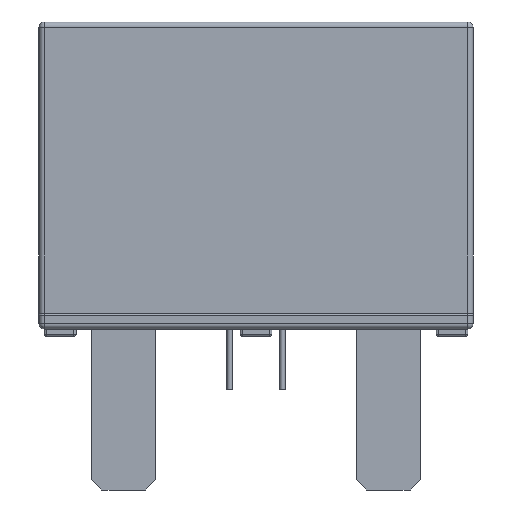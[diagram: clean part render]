
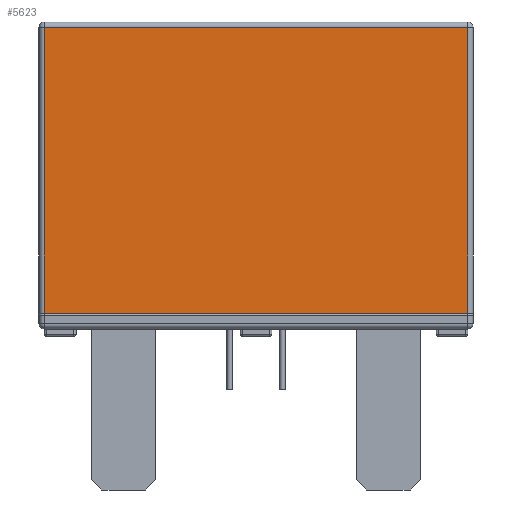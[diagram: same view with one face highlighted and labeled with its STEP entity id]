
A CAD part, front view. The second image highlights one B-rep face of the part: STEP entity #5623.
In plain terms, the highlighted planar face has unit normal (0, -1, 0).
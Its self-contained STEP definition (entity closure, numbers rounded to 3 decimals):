
#1083=DIRECTION('',(1.,0.,0.));
#1084=VECTOR('',#1083,40.);
#1085=CARTESIAN_POINT('',(-20.,-9.3,1.5));
#1086=LINE('',#1085,#1084);
#1189=DIRECTION('',(1.,0.,0.));
#1190=VECTOR('',#1189,40.);
#1191=CARTESIAN_POINT('',(-20.,-9.3,28.5));
#1192=LINE('',#1191,#1190);
#1196=DIRECTION('',(0.,0.,1.));
#1197=VECTOR('',#1196,27.);
#1198=CARTESIAN_POINT('',(-20.,-9.3,1.5));
#1199=LINE('',#1198,#1197);
#1382=DIRECTION('',(0.,0.,1.));
#1383=VECTOR('',#1382,27.);
#1384=CARTESIAN_POINT('',(20.,-9.3,1.5));
#1385=LINE('',#1384,#1383);
#4601=CARTESIAN_POINT('',(-20.,-9.3,1.5));
#4602=CARTESIAN_POINT('',(20.,-9.3,1.5));
#4603=VERTEX_POINT('',#4601);
#4604=VERTEX_POINT('',#4602);
#4769=CARTESIAN_POINT('',(-20.,-9.3,28.5));
#4770=VERTEX_POINT('',#4769);
#4773=CARTESIAN_POINT('',(20.,-9.3,28.5));
#4774=VERTEX_POINT('',#4773);
#5609=CARTESIAN_POINT('',(-20.,-9.3,1.5));
#5610=DIRECTION('',(0.,-1.,0.));
#5611=DIRECTION('',(1.,0.,0.));
#5612=AXIS2_PLACEMENT_3D('',#5609,#5610,#5611);
#5613=PLANE('',#5612);
#5615=ORIENTED_EDGE('',*,*,#5614,.T.);
#5617=ORIENTED_EDGE('',*,*,#5616,.F.);
#5618=ORIENTED_EDGE('',*,*,#5483,.F.);
#5620=ORIENTED_EDGE('',*,*,#5619,.T.);
#5621=EDGE_LOOP('',(#5615,#5617,#5618,#5620));
#5622=FACE_OUTER_BOUND('',#5621,.F.);
#5623=ADVANCED_FACE('',(#5622),#5613,.T.);
#5483=EDGE_CURVE('',#4603,#4604,#1086,.T.);
#5614=EDGE_CURVE('',#4770,#4774,#1192,.T.);
#5616=EDGE_CURVE('',#4604,#4774,#1385,.T.);
#5619=EDGE_CURVE('',#4603,#4770,#1199,.T.);
